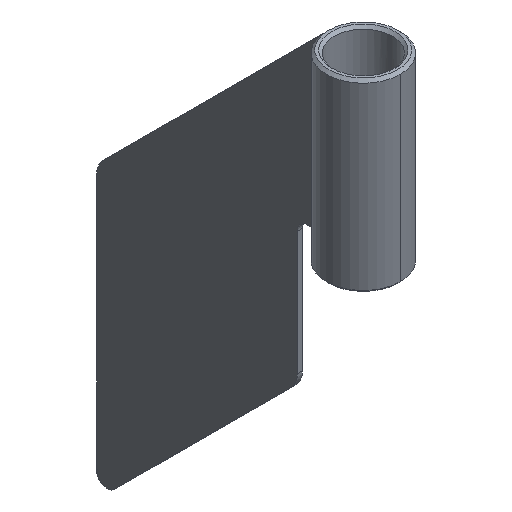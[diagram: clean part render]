
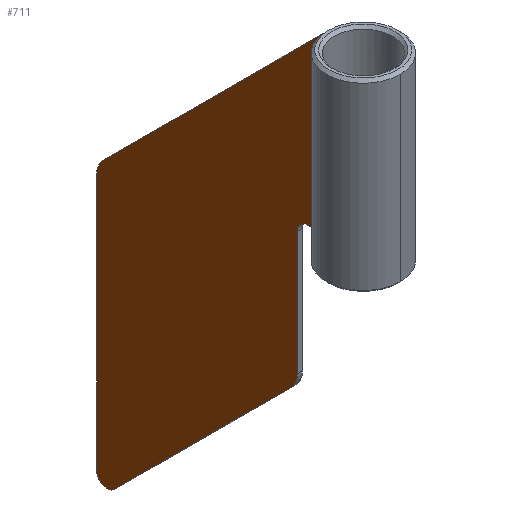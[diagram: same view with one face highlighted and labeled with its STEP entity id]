
A CAD part, isometric view. The second image highlights one B-rep face of the part: STEP entity #711.
In plain terms, the highlighted planar face has unit normal (-1, 0, 0).
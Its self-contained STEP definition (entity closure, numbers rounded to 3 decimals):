
#27=PLANE('',#784);
#65=FACE_OUTER_BOUND('',#103,.T.);
#103=EDGE_LOOP('',(#538,#539,#540,#541,#542,#543,#544,#545,#546,#547,#548,
#549,#550,#551,#552));
#139=CIRCLE('',#772,2.);
#140=CIRCLE('',#775,4.);
#141=CIRCLE('',#778,2.);
#142=CIRCLE('',#781,4.);
#174=LINE('',#1083,#236);
#176=LINE('',#1087,#238);
#192=LINE('',#1126,#254);
#195=LINE('',#1134,#257);
#198=LINE('',#1142,#260);
#201=LINE('',#1150,#263);
#204=LINE('',#1158,#266);
#206=LINE('',#1161,#268);
#207=LINE('',#1164,#269);
#208=LINE('',#1166,#270);
#209=LINE('',#1167,#271);
#236=VECTOR('',#855,10.);
#238=VECTOR('',#857,10.);
#254=VECTOR('',#887,10.);
#257=VECTOR('',#896,10.);
#260=VECTOR('',#905,10.);
#263=VECTOR('',#914,10.);
#266=VECTOR('',#923,10.);
#268=VECTOR('',#927,10.);
#269=VECTOR('',#930,10.);
#270=VECTOR('',#931,10.);
#271=VECTOR('',#932,10.);
#305=VERTEX_POINT('',#1080);
#306=VERTEX_POINT('',#1082);
#307=VERTEX_POINT('',#1084);
#308=VERTEX_POINT('',#1086);
#324=VERTEX_POINT('',#1125);
#325=VERTEX_POINT('',#1129);
#326=VERTEX_POINT('',#1133);
#327=VERTEX_POINT('',#1137);
#328=VERTEX_POINT('',#1141);
#329=VERTEX_POINT('',#1145);
#330=VERTEX_POINT('',#1149);
#331=VERTEX_POINT('',#1153);
#332=VERTEX_POINT('',#1157);
#333=VERTEX_POINT('',#1163);
#334=VERTEX_POINT('',#1165);
#371=EDGE_CURVE('',#306,#305,#174,.T.);
#373=EDGE_CURVE('',#308,#307,#176,.T.);
#393=EDGE_CURVE('',#324,#308,#192,.T.);
#395=EDGE_CURVE('',#325,#324,#139,.T.);
#397=EDGE_CURVE('',#326,#325,#195,.T.);
#399=EDGE_CURVE('',#327,#326,#140,.T.);
#401=EDGE_CURVE('',#328,#327,#198,.T.);
#403=EDGE_CURVE('',#329,#328,#141,.T.);
#405=EDGE_CURVE('',#330,#329,#201,.T.);
#407=EDGE_CURVE('',#331,#330,#142,.T.);
#409=EDGE_CURVE('',#332,#331,#204,.T.);
#411=EDGE_CURVE('',#305,#332,#206,.T.);
#412=EDGE_CURVE('',#333,#306,#207,.T.);
#413=EDGE_CURVE('',#307,#334,#208,.T.);
#414=EDGE_CURVE('',#334,#333,#209,.T.);
#538=ORIENTED_EDGE('',*,*,#412,.T.);
#539=ORIENTED_EDGE('',*,*,#371,.T.);
#540=ORIENTED_EDGE('',*,*,#411,.T.);
#541=ORIENTED_EDGE('',*,*,#409,.T.);
#542=ORIENTED_EDGE('',*,*,#407,.T.);
#543=ORIENTED_EDGE('',*,*,#405,.T.);
#544=ORIENTED_EDGE('',*,*,#403,.T.);
#545=ORIENTED_EDGE('',*,*,#401,.T.);
#546=ORIENTED_EDGE('',*,*,#399,.T.);
#547=ORIENTED_EDGE('',*,*,#397,.T.);
#548=ORIENTED_EDGE('',*,*,#395,.T.);
#549=ORIENTED_EDGE('',*,*,#393,.T.);
#550=ORIENTED_EDGE('',*,*,#373,.T.);
#551=ORIENTED_EDGE('',*,*,#413,.T.);
#552=ORIENTED_EDGE('',*,*,#414,.T.);
#711=ADVANCED_FACE('',(#65),#27,.T.);
#772=AXIS2_PLACEMENT_3D('',#1130,#891,#892);
#775=AXIS2_PLACEMENT_3D('',#1138,#900,#901);
#778=AXIS2_PLACEMENT_3D('',#1146,#909,#910);
#781=AXIS2_PLACEMENT_3D('',#1154,#918,#919);
#784=AXIS2_PLACEMENT_3D('',#1162,#928,#929);
#855=DIRECTION('',(0.,0.,1.));
#857=DIRECTION('',(0.,0.,1.));
#887=DIRECTION('',(0.,-1.,0.));
#891=DIRECTION('center_axis',(1.,0.,0.));
#892=DIRECTION('ref_axis',(0.,0.,-1.));
#896=DIRECTION('',(0.,0.,1.));
#900=DIRECTION('center_axis',(-1.,0.,0.));
#901=DIRECTION('ref_axis',(0.,-0.707,-0.707));
#905=DIRECTION('',(0.,-0.707,0.707));
#909=DIRECTION('center_axis',(-1.,0.,0.));
#910=DIRECTION('ref_axis',(0.,1.,0.));
#914=DIRECTION('',(0.,0.,-1.));
#918=DIRECTION('center_axis',(-1.,0.,0.));
#919=DIRECTION('ref_axis',(0.,0.707,0.707));
#923=DIRECTION('',(0.,0.707,-0.707));
#927=DIRECTION('',(0.,1.,0.));
#928=DIRECTION('center_axis',(-1.,0.,0.));
#929=DIRECTION('ref_axis',(0.,0.,1.));
#930=DIRECTION('',(0.,-1.,0.));
#931=DIRECTION('',(0.,1.,0.));
#932=DIRECTION('',(0.,0.,1.));
#1080=CARTESIAN_POINT('',(-0.5,7.,8.5));
#1082=CARTESIAN_POINT('',(-0.5,7.,2.5));
#1083=CARTESIAN_POINT('',(-0.5,7.,-23.5));
#1084=CARTESIAN_POINT('',(-0.5,7.,-18.5));
#1086=CARTESIAN_POINT('',(-0.5,7.,-23.5));
#1087=CARTESIAN_POINT('',(-0.5,7.,-23.5));
#1125=CARTESIAN_POINT('',(-0.5,10.,-23.5));
#1126=CARTESIAN_POINT('',(-0.5,10.,-23.5));
#1129=CARTESIAN_POINT('',(-0.5,12.,-25.5));
#1130=CARTESIAN_POINT('Origin',(-0.5,10.,-25.5));
#1133=CARTESIAN_POINT('',(-0.5,12.,-48.843));
#1134=CARTESIAN_POINT('',(-0.5,12.,-48.843));
#1137=CARTESIAN_POINT('',(-0.5,13.172,-51.672));
#1138=CARTESIAN_POINT('Origin',(-0.5,16.,-48.843));
#1141=CARTESIAN_POINT('',(-0.5,46.586,-85.086));
#1142=CARTESIAN_POINT('',(-0.5,46.586,-85.086));
#1145=CARTESIAN_POINT('',(-0.5,50.,-83.672));
#1146=CARTESIAN_POINT('Origin',(-0.5,48.,-83.672));
#1149=CARTESIAN_POINT('',(-0.5,50.,-35.157));
#1150=CARTESIAN_POINT('',(-0.5,50.,-35.157));
#1153=CARTESIAN_POINT('',(-0.5,48.828,-32.328));
#1154=CARTESIAN_POINT('Origin',(-0.5,46.,-35.157));
#1157=CARTESIAN_POINT('',(-0.5,8.,8.5));
#1158=CARTESIAN_POINT('',(-0.5,8.,8.5));
#1161=CARTESIAN_POINT('',(-0.5,7.,8.5));
#1162=CARTESIAN_POINT('Origin',(-0.5,28.461,-38.16));
#1163=CARTESIAN_POINT('',(-0.5,7.689,2.5));
#1164=CARTESIAN_POINT('',(-0.5,17.722,2.5));
#1165=CARTESIAN_POINT('',(-0.5,7.689,-18.5));
#1166=CARTESIAN_POINT('',(-0.5,17.722,-18.5));
#1167=CARTESIAN_POINT('',(-0.5,7.689,-18.5));
